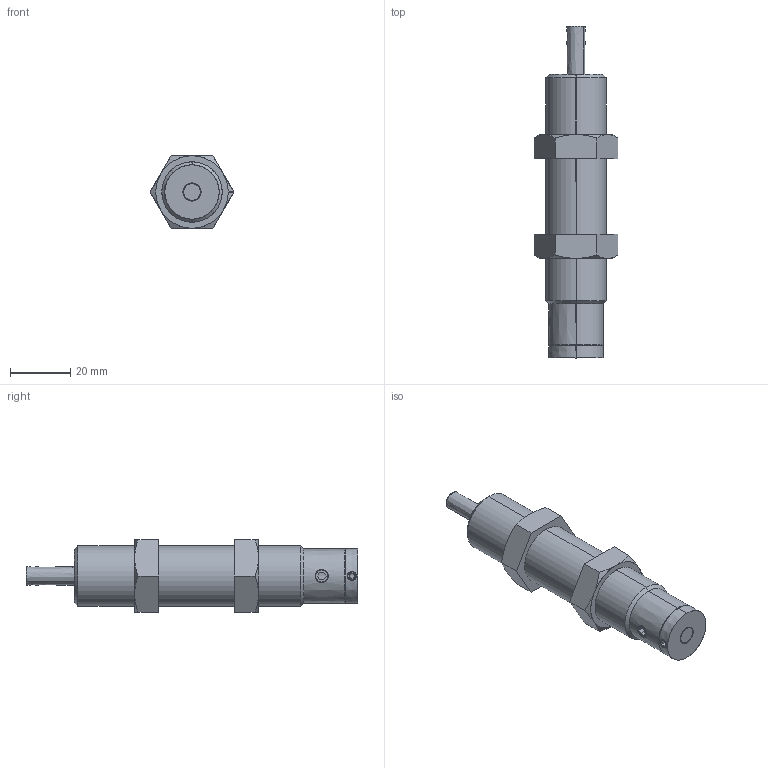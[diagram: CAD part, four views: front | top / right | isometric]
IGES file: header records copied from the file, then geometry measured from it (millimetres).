
Start section: SolidWorks IGES file using analytic representation for surfaces
Bounding box: 27.71 x 110 x 24 mm (x, y, z)
Surface area: 9752.3 mm2 (no closed solid volume)
Topology: 0 solids, 0 shells, 108 faces, 1565 edges, 1565 vertices
Faces by surface type: revolution 62, bspline 46
